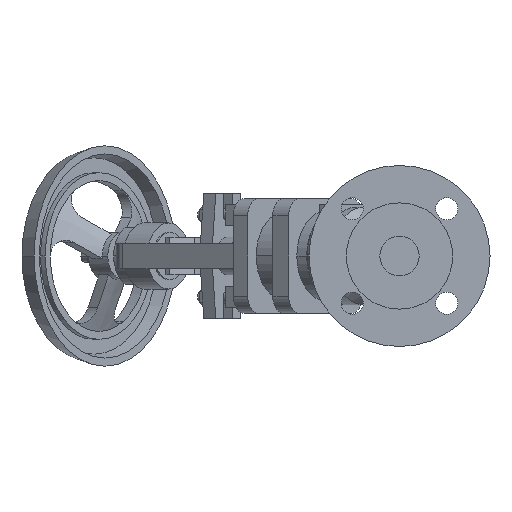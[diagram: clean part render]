
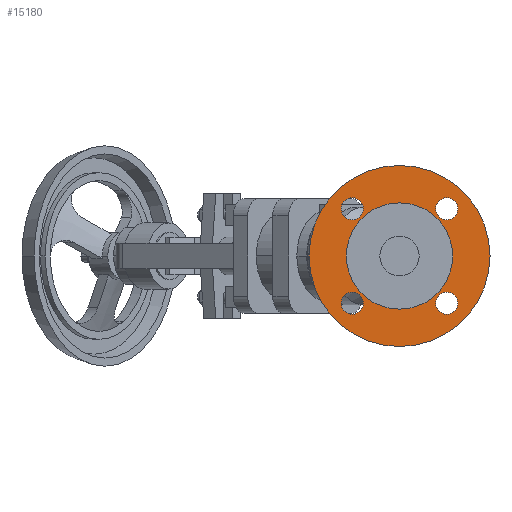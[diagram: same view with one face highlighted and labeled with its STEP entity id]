
A CAD part, left-side view. The second image highlights one B-rep face of the part: STEP entity #15180.
In plain terms, the highlighted planar face has unit normal (-1, 0, 0).
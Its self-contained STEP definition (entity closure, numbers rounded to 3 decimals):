
#3680=CARTESIAN_POINT('',(3.2,33.78,0.));
#3690=VERTEX_POINT('',#3680);
#3720=CARTESIAN_POINT('',(3.2,0.,0.));
#3730=DIRECTION('',(-1.,0.,0.));
#3740=DIRECTION('',(0.,1.,0.));
#3750=AXIS2_PLACEMENT_3D('',#3720,#3730,#3740);
#3760=CIRCLE('',#3750,33.78);
#3770=CARTESIAN_POINT('',(3.2,-33.78,0.));
#3780=VERTEX_POINT('',#3770);
#3790=EDGE_CURVE('',#3780,#3690,#3760,.T.);
#6650=CARTESIAN_POINT('',(3.2,0.,-57.5));
#6660=VERTEX_POINT('',#6650);
#6840=CARTESIAN_POINT('',(3.2,0.,57.5));
#6850=VERTEX_POINT('',#6840);
#6880=CARTESIAN_POINT('',(3.2,0.,0.));
#6890=DIRECTION('',(1.,0.,0.));
#6900=DIRECTION('',(0.,0.,-1.));
#6910=AXIS2_PLACEMENT_3D('',#6880,#6890,#6900);
#6920=CIRCLE('',#6910,57.5);
#6930=EDGE_CURVE('',#6660,#6850,#6920,.T.);
#7140=CARTESIAN_POINT('',(3.2,30.052,-23.052));
#7150=VERTEX_POINT('',#7140);
#7200=CARTESIAN_POINT('',(3.2,30.052,-30.052));
#7210=DIRECTION('',(-1.,0.,0.));
#7220=DIRECTION('',(0.,0.,-1.));
#7230=AXIS2_PLACEMENT_3D('',#7200,#7210,#7220);
#7240=CIRCLE('',#7230,7.);
#7250=CARTESIAN_POINT('',(3.2,30.052,-37.052));
#7260=VERTEX_POINT('',#7250);
#7270=EDGE_CURVE('',#7260,#7150,#7240,.T.);
#7630=CARTESIAN_POINT('',(3.2,-30.052,-23.052));
#7640=VERTEX_POINT('',#7630);
#7820=CARTESIAN_POINT('',(3.2,-30.052,-37.052));
#7830=VERTEX_POINT('',#7820);
#7860=CARTESIAN_POINT('',(3.2,-30.052,-30.052));
#7870=DIRECTION('',(-1.,0.,0.));
#7880=DIRECTION('',(0.,0.,-1.));
#7890=AXIS2_PLACEMENT_3D('',#7860,#7870,#7880);
#7900=CIRCLE('',#7890,7.);
#7910=EDGE_CURVE('',#7640,#7830,#7900,.T.);
#8120=CARTESIAN_POINT('',(3.2,30.052,23.052));
#8130=VERTEX_POINT('',#8120);
#8310=CARTESIAN_POINT('',(3.2,30.052,37.052));
#8320=VERTEX_POINT('',#8310);
#8350=CARTESIAN_POINT('',(3.2,30.052,30.052));
#8360=DIRECTION('',(-1.,0.,0.));
#8370=DIRECTION('',(0.,0.,-1.));
#8380=AXIS2_PLACEMENT_3D('',#8350,#8360,#8370);
#8390=CIRCLE('',#8380,7.);
#8400=EDGE_CURVE('',#8130,#8320,#8390,.T.);
#8610=CARTESIAN_POINT('',(3.2,-30.052,37.052));
#8620=VERTEX_POINT('',#8610);
#8670=CARTESIAN_POINT('',(3.2,-30.052,30.052));
#8680=DIRECTION('',(-1.,0.,0.));
#8690=DIRECTION('',(0.,0.,-1.));
#8700=AXIS2_PLACEMENT_3D('',#8670,#8680,#8690);
#8710=CIRCLE('',#8700,7.);
#8720=CARTESIAN_POINT('',(3.2,-30.052,23.052));
#8730=VERTEX_POINT('',#8720);
#8740=EDGE_CURVE('',#8730,#8620,#8710,.T.);
#14830=CARTESIAN_POINT('',(3.2,0.,0.));
#14840=DIRECTION('',(1.,0.,0.));
#14850=DIRECTION('',(0.,0.,-1.));
#14860=AXIS2_PLACEMENT_3D('',#14830,#14840,#14850);
#14870=PLANE('',#14860);
#14880=EDGE_CURVE('',#8620,#8730,#8710,.T.);
#14890=ORIENTED_EDGE('',*,*,#14880,.F.);
#14900=ORIENTED_EDGE('',*,*,#8740,.F.);
#14910=EDGE_LOOP('',(#14900,#14890));
#14920=FACE_BOUND('',#14910,.T.);
#14930=EDGE_CURVE('',#8320,#8130,#8390,.T.);
#14940=ORIENTED_EDGE('',*,*,#14930,.F.);
#14950=ORIENTED_EDGE('',*,*,#8400,.F.);
#14960=EDGE_LOOP('',(#14950,#14940));
#14970=FACE_BOUND('',#14960,.T.);
#14980=EDGE_CURVE('',#7830,#7640,#7900,.T.);
#14990=ORIENTED_EDGE('',*,*,#14980,.F.);
#15000=ORIENTED_EDGE('',*,*,#7910,.F.);
#15010=EDGE_LOOP('',(#15000,#14990));
#15020=FACE_BOUND('',#15010,.T.);
#15030=EDGE_CURVE('',#7150,#7260,#7240,.T.);
#15040=ORIENTED_EDGE('',*,*,#15030,.F.);
#15050=ORIENTED_EDGE('',*,*,#7270,.F.);
#15060=EDGE_LOOP('',(#15050,#15040));
#15070=FACE_BOUND('',#15060,.T.);
#15080=EDGE_CURVE('',#6850,#6660,#6920,.T.);
#15090=ORIENTED_EDGE('',*,*,#15080,.F.);
#15100=ORIENTED_EDGE('',*,*,#6930,.F.);
#15110=EDGE_LOOP('',(#15100,#15090));
#15120=FACE_OUTER_BOUND('',#15110,.T.);
#15130=EDGE_CURVE('',#3690,#3780,#3760,.T.);
#15140=ORIENTED_EDGE('',*,*,#15130,.F.);
#15150=ORIENTED_EDGE('',*,*,#3790,.F.);
#15160=EDGE_LOOP('',(#15150,#15140));
#15170=FACE_BOUND('',#15160,.T.);
#15180=ADVANCED_FACE('',(#14920,#14970,#15020,#15070,#15120,#15170),
#14870,.F.);
